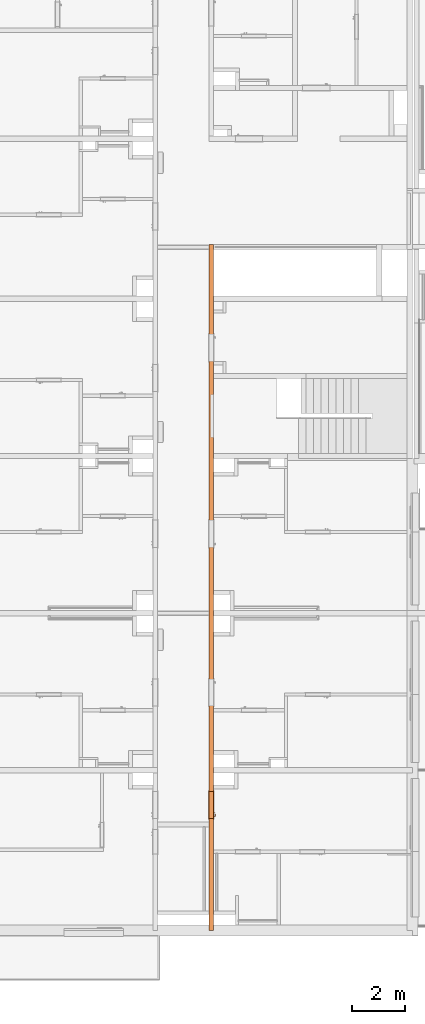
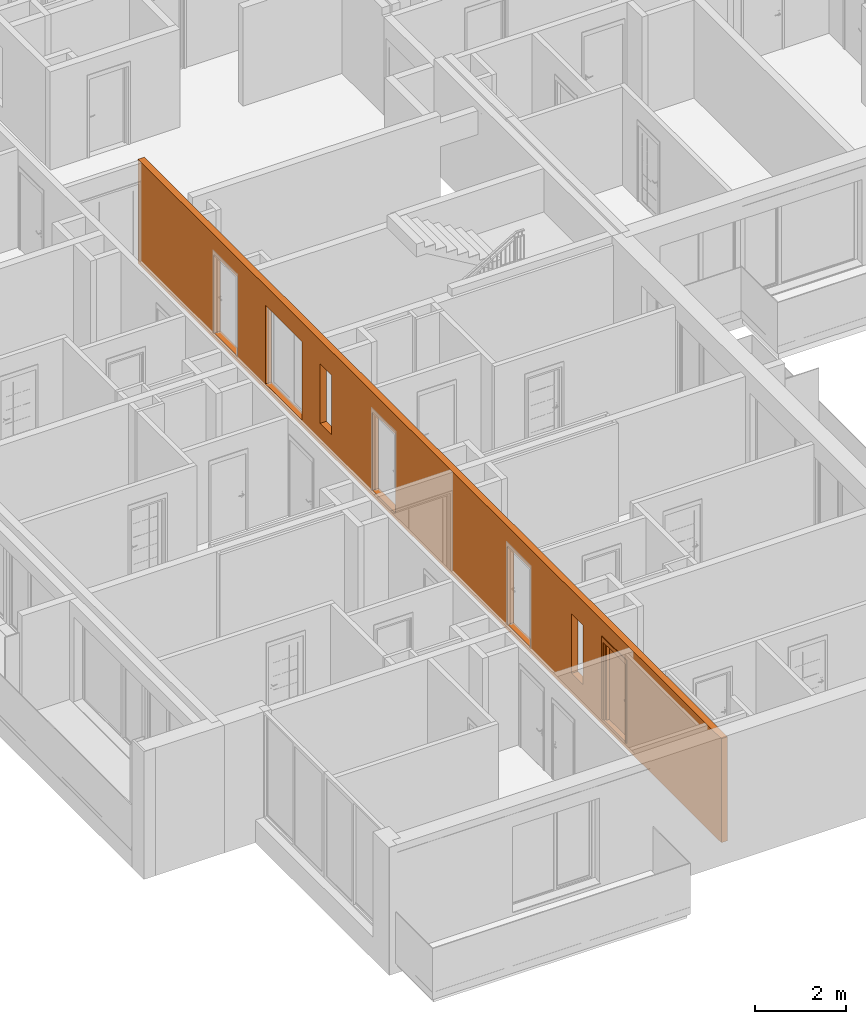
# One storey, part 11 of 67: 2 proxies, 7 openings.
"""IFC2X3 building model written with IfcOpenShell, lengths in millimetres."""

import ifcopenshell
import ifcopenshell.guid

model = None  # the IFC model being written
_history = None  # IfcOwnerHistory: only IFC2X3 demands one
_inside = {}  # id of a spatial element -> (the spatial element, [elements in it])
_under = {}  # id of a project, library or spatial element -> (it, [spatial elements below it])
_declared = {}  # id of a project -> (the project, [libraries it declares])
_typed = {}  # id of a type object -> (the type object, [elements of that type])
_made_of = {}  # id of a material, layer set ... -> (it, [elements and type objects made of it])


def new_model(schema):
    """Start an empty IFC model of exactly this schema.

    Asked for "IFC4X3", IfcOpenShell would pick the latest addendum, in which some entities
    have other attributes; the version numbers below select the first issue.
    IFC2X3 requires an IfcOwnerHistory on every rooted entity: one is made here for all.
    """
    global model, _history
    if schema == "IFC4X3":
        model = ifcopenshell.file(schema_version=(4, 3, 0, 0))
    else:
        model = ifcopenshell.file(schema=schema)
    _inside.clear()
    _under.clear()
    _declared.clear()
    _typed.clear()
    _made_of.clear()
    _history = None
    if model.schema == "IFC2X3":
        org = make("IfcOrganization", Name="unknown")
        user = make(
            "IfcPersonAndOrganization",
            ThePerson=make("IfcPerson", FamilyName="unknown"),
            TheOrganization=org,
        )
        app = make(
            "IfcApplication",
            ApplicationDeveloper=org,
            Version="unknown",
            ApplicationFullName="unknown",
            ApplicationIdentifier="unknown",
        )
        _history = make(
            "IfcOwnerHistory",
            OwningUser=user,
            OwningApplication=app,
            ChangeAction="ADDED",
            CreationDate=0,
        )
    return model


def make(cls, **values):
    """One entity of the class cls with the attributes given. An attribute that is None is left unset."""
    return model.create_entity(
        cls, **{name: value for name, value in values.items() if value is not None}
    )


def entity(cls, *values):
    """Any entity or typed value of the class cls, its attributes in the order of the schema. None: left unset."""
    e = model.create_entity(cls)
    for i, value in enumerate(values):
        if value is not None:
            e[i] = value
    return e


def rooted(cls, **values):
    """An entity with a GlobalId (a new one), such as an element, a storey or a relation."""
    return make(cls, GlobalId=ifcopenshell.guid.new(), OwnerHistory=_history, **values)


def si_unit(unit_type, name, prefix=None):
    """IfcSIUnit, for example si_unit("LENGTHUNIT", "METRE", prefix="MILLI")."""
    return make("IfcSIUnit", UnitType=unit_type, Prefix=prefix, Name=name)


def converted_unit(unit_type, name, factor, base, dimensions=None, offset=None):
    """IfcConversionBasedUnit, such as the inch: factor (a typed value) times the base unit."""
    return make(
        "IfcConversionBasedUnit"
        if offset is None
        else "IfcConversionBasedUnitWithOffset",
        ConversionOffset=offset,
        Dimensions=None
        if dimensions is None
        else entity("IfcDimensionalExponents", *dimensions),
        UnitType=unit_type,
        Name=name,
        ConversionFactor=make(
            "IfcMeasureWithUnit", ValueComponent=factor, UnitComponent=base
        ),
    )


def derived_unit(unit_type, elements):
    """IfcDerivedUnit: a product of units, each with its exponent."""
    return make(
        "IfcDerivedUnit",
        Elements=[
            make("IfcDerivedUnitElement", Unit=unit, Exponent=power)
            for unit, power in elements
        ],
        UnitType=unit_type,
    )


def money_unit(currency):
    """IfcMonetaryUnit."""
    return make("IfcMonetaryUnit", Currency=currency)


def assignment(units):
    """IfcUnitAssignment: the units of a project."""
    return None if units is None else make("IfcUnitAssignment", Units=units)


def point(xyz):
    """IfcCartesianPoint."""
    return None if xyz is None else make("IfcCartesianPoint", Coordinates=xyz)


def direction(xyz):
    """IfcDirection."""
    return None if xyz is None else make("IfcDirection", DirectionRatios=xyz)


def frame(location, z_axis=None, x_axis=None):
    """IfcAxis2Placement3D, a coordinate frame: its origin and axes. An axis left out is left unset."""
    return make(
        "IfcAxis2Placement3D",
        Location=point(location),
        Axis=direction(z_axis),
        RefDirection=direction(x_axis),
    )


def frame_2d(location, x_axis=None):
    """IfcAxis2Placement2D, a coordinate frame in the plane: its origin and x axis."""
    return make(
        "IfcAxis2Placement2D", Location=point(location), RefDirection=direction(x_axis)
    )


def origin_with_axes():
    """The frame at (0, 0, 0) with the z axis (0, 0, 1) and the x axis (1, 0, 0) written out."""
    return frame((0.0, 0.0, 0.0), z_axis=(0.0, 0.0, 1.0), x_axis=(1.0, 0.0, 0.0))


def origin_2d_with_axis():
    """The frame at (0, 0) in the plane with the x axis (1, 0) written out."""
    return frame_2d((0.0, 0.0), x_axis=(1.0, 0.0))


def place(relative_to, where):
    """IfcLocalPlacement: puts the frame where relative to a parent placement (None: the world)."""
    return make(
        "IfcLocalPlacement", PlacementRelTo=relative_to, RelativePlacement=where
    )


def context(
    kind, dimensions, precision=None, world=None, true_north=None, identifier=None
):
    """IfcGeometricRepresentationContext, for example the 3D "Model" context."""
    return make(
        "IfcGeometricRepresentationContext",
        ContextIdentifier=identifier,
        ContextType=kind,
        CoordinateSpaceDimension=dimensions,
        Precision=precision,
        WorldCoordinateSystem=world,
        TrueNorth=true_north,
    )


def subcontext(parent, identifier, kind, view, scale=None):
    """IfcGeometricRepresentationSubContext, for example "Body" below "Model"."""
    return make(
        "IfcGeometricRepresentationSubContext",
        ContextIdentifier=identifier,
        ContextType=kind,
        ParentContext=parent,
        TargetScale=scale,
        TargetView=view,
    )


def project(units=None, contexts=None):
    """IfcProject with its units and contexts."""
    return rooted(
        "IfcProject",
        Name="project",
        RepresentationContexts=contexts,
        UnitsInContext=assignment(units),
    )


def spatial(cls, under=None, at=None, **own):
    """A site, building, storey or space (cls), placed at a placement, below another one or the project."""
    s = rooted(cls, ObjectPlacement=at, **own)
    if under is not None:
        _under.setdefault(under.id(), (under, []))[1].append(s)
    return s


def profile(cls, at=None, kind="AREA", **sizes):
    """A parametric profile (cls). Its sizes go by their IFC names, for example OverallWidth=200.0."""
    return make(cls, ProfileType=kind, Position=at, **sizes)


def rectangle(**sizes):
    """IfcRectangleProfileDef."""
    return profile("IfcRectangleProfileDef", **sizes)


def extrude(swept, where, along, depth):
    """IfcExtrudedAreaSolid: the profile swept, set in the frame where, extruded along a direction by depth."""
    return make(
        "IfcExtrudedAreaSolid",
        SweptArea=swept,
        Position=where,
        ExtrudedDirection=direction(along),
        Depth=depth,
    )


def faces_of(points, faces, orient=None, outer=None):
    """IfcFace entities. A face is a list of loops; a loop is a list of indices into points, from 0.

    orient and outer hold one flag for each loop. By default every Orientation is true, the
    first loop of a face is its IfcFaceOuterBound and the others are IfcFaceBound.
    """
    made = []
    for i, loops in enumerate(faces):
        bounds = []
        for j, loop in enumerate(loops):
            is_outer = j == 0 if outer is None else outer[i][j]
            bounds.append(
                make(
                    "IfcFaceOuterBound" if is_outer else "IfcFaceBound",
                    Bound=make("IfcPolyLoop", Polygon=[points[k] for k in loop]),
                    Orientation=True if orient is None else orient[i][j],
                )
            )
        made.append(make("IfcFace", Bounds=bounds))
    return made


def open_shell(faces, orient=None, outer=None):
    """The faces of one IfcOpenShell. surface_model builds it on its shared points."""
    return ("IfcOpenShell", faces, orient, outer)


def faceted_brep(points, faces, orient=None, outer=None, voids=None):
    """IfcFacetedBrep: a solid bounded by flat faces; with voids (closed shells), ...WithVoids."""
    shared = [point(p) for p in points]
    hull = make("IfcClosedShell", CfsFaces=faces_of(shared, faces, orient, outer))
    if voids is None:
        return make("IfcFacetedBrep", Outer=hull)
    return make(
        "IfcFacetedBrepWithVoids",
        Outer=hull,
        Voids=[
            make(cls, CfsFaces=faces_of(shared, fs, o, b)) for cls, fs, o, b in voids
        ],
    )


def surface_model(cls, points, shells):
    """IfcFaceBasedSurfaceModel or IfcShellBasedSurfaceModel (cls): surfaces that need not close."""
    shared = [point(p) for p in points]
    made = [make(c, CfsFaces=faces_of(shared, fs, o, b)) for c, fs, o, b in shells]
    if cls == "IfcFaceBasedSurfaceModel":
        return make(cls, FbsmFaces=made)
    return make(cls, SbsmBoundary=made)


def shape(context_of_items, identifier, shape_type, items):
    """IfcShapeRepresentation: the items that make up one representation, for example the "Body"."""
    return make(
        "IfcShapeRepresentation",
        ContextOfItems=context_of_items,
        RepresentationIdentifier=identifier,
        RepresentationType=shape_type,
        Items=items,
    )


def source(mapping_origin, context_of_items, identifier, shape_type, items):
    """IfcRepresentationMap: a shape defined once, which mapped items show again and again."""
    return make(
        "IfcRepresentationMap",
        MappingOrigin=mapping_origin,
        MappedRepresentation=shape(context_of_items, identifier, shape_type, items),
    )


def transform(
    local_origin,
    x_axis=None,
    y_axis=None,
    z_axis=None,
    scale=None,
    scale2=None,
    scale3=None,
    uniform=True,
):
    """IfcCartesianTransformationOperator3D, or its non-uniform kind. x_axis, y_axis, z_axis: its Axis1, 2, 3."""
    if uniform:
        return make(
            "IfcCartesianTransformationOperator3D",
            Axis1=direction(x_axis),
            Axis2=direction(y_axis),
            LocalOrigin=point(local_origin),
            Scale=scale,
            Axis3=direction(z_axis),
        )
    return make(
        "IfcCartesianTransformationOperator3DnonUniform",
        Axis1=direction(x_axis),
        Axis2=direction(y_axis),
        LocalOrigin=point(local_origin),
        Scale=scale,
        Axis3=direction(z_axis),
        Scale2=scale2,
        Scale3=scale3,
    )


def mapped(mapping_source, mapping_target):
    """IfcMappedItem: shows the shape of a source again, moved by a transform."""
    return make(
        "IfcMappedItem", MappingSource=mapping_source, MappingTarget=mapping_target
    )


def material(Name=None, Category=None):
    """IfcMaterial."""
    return make("IfcMaterial", Name=Name, Category=Category)


def made_of(thing, what):
    """Note that an element or type object is made of a material, layer set ...; save() writes the relation."""
    if what is not None:
        _made_of.setdefault(what.id(), (what, []))[1].append(thing)
    return thing


def type_object(cls, material=None, **own):
    """A type object (cls), such as IfcWallType, which elements share."""
    return made_of(rooted(cls, **own), material)


def element(
    cls,
    number,
    at=None,
    inside=None,
    cuts=None,
    type_object=None,
    material=None,
    context=None,
    identifier="Body",
    shape_type=None,
    held_by="IfcProductDefinitionShape",
    body=None,
    shapes=None,
    **own,
):
    """One element of the class cls, such as IfcWall. Its Tag is "e" and its number.

    at: its placement. inside: the storey or other place that contains it. cuts: it is an
    opening in that element (IfcRelVoidsElement). A single representation is given by context,
    identifier, shape_type and body (its items); several are given by shapes. held_by: the class
    of the entity that holds the representations. save() writes the other relations.
    """
    e = rooted(cls, Tag="e%d" % number, ObjectPlacement=at, **own)
    if body is not None:
        shapes = [shape(context, identifier, shape_type, body)]
    if shapes is not None:
        e.Representation = make(held_by, Representations=shapes)
    if inside is not None:
        _inside.setdefault(inside.id(), (inside, []))[1].append(e)
    if cuts is not None:
        rooted(
            "IfcRelVoidsElement", RelatingBuildingElement=cuts, RelatedOpeningElement=e
        )
    if type_object is not None:
        _typed.setdefault(type_object.id(), (type_object, []))[1].append(e)
    return made_of(e, material)


def fill(opening, filler):
    """IfcRelFillsElement: the door or window that sits in an opening."""
    return rooted(
        "IfcRelFillsElement",
        RelatingOpeningElement=opening,
        RelatedBuildingElement=filler,
    )


def aggregate(whole, parts):
    """IfcRelAggregates: a whole, such as a stair, and the parts it consists of."""
    return rooted("IfcRelAggregates", RelatingObject=whole, RelatedObjects=parts)


def save(model, path):
    """Write the relations noted so far, then the file.

    IfcRelAggregates (storeys below a building ...), IfcRelContainedInSpatialStructure (elements
    in a storey), IfcRelDefinesByType, IfcRelAssociatesMaterial and IfcRelDeclares: one each for
    every whole, place, type object, material and project.
    """
    for whole, parts in _under.values():
        aggregate(whole, parts)
    for where, things in _inside.values():
        rooted(
            "IfcRelContainedInSpatialStructure",
            RelatedElements=things,
            RelatingStructure=where,
        )
    for kind, things in _typed.values():
        rooted("IfcRelDefinesByType", RelatedObjects=things, RelatingType=kind)
    for what, things in _made_of.values():
        rooted("IfcRelAssociatesMaterial", RelatedObjects=things, RelatingMaterial=what)
    for by, libraries in _declared.values():
        rooted("IfcRelDeclares", RelatingContext=by, RelatedDefinitions=libraries)
    model.write(path)


model = new_model("IFC2X3")

# Units and contexts
model_context = context("Model", 3, precision=0.01, world=origin_with_axes(), true_north=direction((0.34421633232, 0.938890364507)))
body_context = subcontext(model_context, "Body", "Model", "MODEL_VIEW")
ifc_project = project(units=[si_unit("LENGTHUNIT", "METRE", prefix="MILLI"), si_unit("AREAUNIT", "SQUARE_METRE"), si_unit("VOLUMEUNIT", "CUBIC_METRE"), converted_unit("PLANEANGLEUNIT", "DEGREE", entity("IfcPlaneAngleMeasure", 0.0174532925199), si_unit("PLANEANGLEUNIT", "RADIAN"), dimensions=[0, 0, 0, 0, 0, 0, 0]), si_unit("SOLIDANGLEUNIT", "STERADIAN"), money_unit("USD"), converted_unit("TIMEUNIT", "Year", entity("IfcTimeMeasure", 31556926.0), si_unit("TIMEUNIT", "SECOND"), dimensions=[0, 0, 1, 0, 0, 0, 0]), si_unit("MASSUNIT", "GRAM", prefix="KILO"), si_unit("THERMODYNAMICTEMPERATUREUNIT", "DEGREE_CELSIUS"), si_unit("LUMINOUSINTENSITYUNIT", "LUMEN"), si_unit("ENERGYUNIT", "JOULE", prefix="MEGA"), derived_unit("THERMALCONDUCTANCEUNIT", [(si_unit("POWERUNIT", "WATT"), 1), (si_unit("LENGTHUNIT", "METRE"), -1), (si_unit("THERMODYNAMICTEMPERATUREUNIT", "KELVIN"), -1)]), derived_unit("SPECIFICHEATCAPACITYUNIT", [(si_unit("ENERGYUNIT", "JOULE"), 1), (si_unit("MASSUNIT", "GRAM", prefix="KILO"), -1), (si_unit("THERMODYNAMICTEMPERATUREUNIT", "KELVIN"), -1)]), derived_unit("MASSDENSITYUNIT", [(si_unit("MASSUNIT", "GRAM", prefix="KILO"), 1), (si_unit("VOLUMEUNIT", "CUBIC_METRE"), -1)])], contexts=[model_context])

# Site, building, storey
site_placement = place(None, origin_with_axes())
site = spatial("IfcSite", under=ifc_project, at=site_placement, Name="USTRONIE MORSKIE", CompositionType="ELEMENT")
building_placement = place(site_placement, origin_with_axes())
building = spatial("IfcBuilding", under=site, at=building_placement, Name="Budynek", CompositionType="ELEMENT")
storey_placement = place(building_placement, frame((0.0, 0.0, 4000.0), z_axis=(0.0, 0.0, 1.0), x_axis=(1.0, 0.0, 0.0)))
storey = spatial("IfcBuildingStorey", under=building, at=storey_placement, Name="PIĘTRO 1", CompositionType="ELEMENT", Elevation=4000.0)

# Proxies, openings
ifc_material = material(Name="Beton konstrukcyjny B25")
building_element_proxy_type_1 = type_object("IfcBuildingElementProxyType", Name="Beton konstrukcyjny B25 160", PredefinedType="NOTDEFINED")
proxy_1_placement = place(storey_placement, frame((359617.920919, 734831.198985, -160.0), z_axis=(0.0, 0.0, 1.0), x_axis=(0.0, -1.0, 0.0)))
proxy_1 = element("IfcBuildingElementProxy", 1, at=proxy_1_placement, inside=storey, type_object=building_element_proxy_type_1, material=ifc_material, Name="SW-01", context=body_context, shape_type="Brep", body=[
    faceted_brep([(0.0, 80.0, 0.0), (25729.9999491, 80.0, 0.0), (25729.9999491, -80.0, 0.0), (0.0, -80.0, 0.0), (0.0, 80.0, 2800.0), (25729.9999491, 80.0, 2800.0), (25729.9999491, -80.0, 2800.0), (0.0, -80.0, 2800.0)], [[[0, 1, 2, 3]], [[4, 5, 1, 0]], [[6, 2, 1, 5]], [[3, 2, 6, 7]], [[7, 4, 0, 3]], [[7, 6, 5, 4]]]),
])
opening_1_placement = place(proxy_1_placement, frame((16809.9552113, 0.0, 160.0), z_axis=(0.0, 0.0, 1.0), x_axis=(1.0, 0.0, 0.0)))
element("IfcOpeningElement", 2, at=opening_1_placement, cuts=proxy_1, Name="Dw.1", context=body_context, shape_type="SweptSolid", body=[
    extrude(rectangle(XDim=1020.0, YDim=2120.0, at=origin_2d_with_axis()), frame((0.0, -160.0, 1060.0), z_axis=(0.0, 1.0, 0.0), x_axis=(1.0, 0.0, 0.0)), (0.0, 0.0, 1.0), 480.0),
    extrude(rectangle(XDim=1094.0, YDim=2227.0, at=origin_2d_with_axis()), frame((0.0, -80.0, 1113.5), z_axis=(0.0, 1.0, 0.0), x_axis=(1.0, 0.0, 0.0)), (0.0, 0.0, -1.0), 160.0),
    extrude(rectangle(XDim=1094.0, YDim=2227.0, at=origin_2d_with_axis()), frame((0.0, 80.0, 1113.5), z_axis=(0.0, -1.0, 0.0), x_axis=(1.0, 0.0, 0.0)), (0.0, 0.0, -1.0), 160.0),
])
opening_2_placement = place(proxy_1_placement, frame((21029.9999495, 0.0, 160.0), z_axis=(0.0, 0.0, 1.0), x_axis=(1.0, 0.0, 0.0)))
opening_2 = element("IfcOpeningElement", 3, at=opening_2_placement, cuts=proxy_1, Name="Dw.1", context=body_context, shape_type="SweptSolid", body=[
    extrude(rectangle(XDim=1020.0, YDim=2120.0, at=origin_2d_with_axis()), frame((0.0, -160.0, 1060.0), z_axis=(0.0, -1.0, 0.0), x_axis=(-1.0, 0.0, 0.0)), (0.0, 0.0, -1.0), 480.0),
    extrude(rectangle(XDim=1094.0, YDim=2227.0, at=origin_2d_with_axis()), frame((0.0, -80.0, 1113.5), z_axis=(0.0, -1.0, 0.0), x_axis=(-1.0, 0.0, 0.0)), (0.0, 0.0, 1.0), 160.0),
    extrude(rectangle(XDim=1094.0, YDim=2227.0, at=origin_2d_with_axis()), frame((0.0, 80.0, 1113.5), z_axis=(0.0, 1.0, 0.0), x_axis=(-1.0, 0.0, 0.0)), (0.0, 0.0, 1.0), 160.0),
])
opening_3_placement = place(proxy_1_placement, frame((3869.9999533, 0.0, 160.0), z_axis=(0.0, 0.0, 1.0), x_axis=(1.0, 0.0, 0.0)))
element("IfcOpeningElement", 4, at=opening_3_placement, cuts=proxy_1, Name="Dw.2", context=body_context, shape_type="SweptSolid", body=[
    extrude(rectangle(XDim=1020.0, YDim=2120.0, at=origin_2d_with_axis()), frame((0.0, -160.0, 1060.0), z_axis=(0.0, 1.0, 0.0), x_axis=(1.0, 0.0, 0.0)), (0.0, 0.0, 1.0), 480.0),
    extrude(rectangle(XDim=1094.0, YDim=2227.0, at=origin_2d_with_axis()), frame((0.0, -80.0, 1113.5), z_axis=(0.0, 1.0, 0.0), x_axis=(1.0, 0.0, 0.0)), (0.0, 0.0, -1.0), 160.0),
    extrude(rectangle(XDim=1094.0, YDim=2227.0, at=origin_2d_with_axis()), frame((0.0, 80.0, 1113.5), z_axis=(0.0, -1.0, 0.0), x_axis=(1.0, 0.0, 0.0)), (0.0, 0.0, -1.0), 160.0),
])
opening_4_placement = place(proxy_1_placement, frame((6429.99994909, 0.0, 160.0), z_axis=(0.0, 0.0, 1.0), x_axis=(1.0, 0.0, 0.0)))
element("IfcOpeningElement", 5, at=opening_4_placement, cuts=proxy_1, Name="D2", context=body_context, shape_type="SweptSolid", body=[
    extrude(rectangle(XDim=1620.0, YDim=2120.0, at=origin_2d_with_axis()), frame((0.0, -160.0, 1060.0), z_axis=(0.0, -1.0, 0.0), x_axis=(-1.0, 0.0, 0.0)), (0.0, 0.0, -1.0), 480.0),
])
opening_5_placement = place(proxy_1_placement, frame((10850.0446869, 0.0, 160.0), z_axis=(0.0, 0.0, 1.0), x_axis=(1.0, 0.0, 0.0)))
element("IfcOpeningElement", 6, at=opening_5_placement, cuts=proxy_1, Name="Dw.1", context=body_context, shape_type="SweptSolid", body=[
    extrude(rectangle(XDim=1020.0, YDim=2120.0, at=origin_2d_with_axis()), frame((0.0, -160.0, 1060.0), z_axis=(0.0, -1.0, 0.0), x_axis=(-1.0, 0.0, 0.0)), (0.0, 0.0, -1.0), 480.0),
    extrude(rectangle(XDim=1094.0, YDim=2227.0, at=origin_2d_with_axis()), frame((0.0, -80.0, 1113.5), z_axis=(0.0, -1.0, 0.0), x_axis=(-1.0, 0.0, 0.0)), (0.0, 0.0, 1.0), 160.0),
    extrude(rectangle(XDim=1094.0, YDim=2227.0, at=origin_2d_with_axis()), frame((0.0, 80.0, 1113.5), z_axis=(0.0, 1.0, 0.0), x_axis=(-1.0, 0.0, 0.0)), (0.0, 0.0, 1.0), 160.0),
])
opening_6_placement = place(proxy_1_placement, frame((8280.00085724, 0.0, 560.0), z_axis=(0.0, 0.0, 1.0), x_axis=(1.0, 0.0, 0.0)))
element("IfcOpeningElement", 7, at=opening_6_placement, cuts=proxy_1, Name="R.01", context=body_context, shape_type="SweptSolid", body=[
    extrude(rectangle(XDim=500.001816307, YDim=1600.0, at=origin_2d_with_axis()), frame((0.0, -80.0, 800.0), z_axis=(0.0, 1.0, 0.0), x_axis=(1.0, 0.0, 0.0)), (0.0, 0.0, -1.0), 160.0),
    extrude(rectangle(XDim=500.001816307, YDim=1600.0, at=origin_2d_with_axis()), frame((0.0, -80.0, 800.0), z_axis=(0.0, -1.0, 0.0), x_axis=(1.0, 0.0, 0.0)), (0.0, 0.0, -1.0), 160.0),
])
opening_7_placement = place(proxy_1_placement, frame((19380.0004126, 0.0, 560.0), z_axis=(0.0, 0.0, 1.0), x_axis=(1.0, 0.0, 0.0)))
element("IfcOpeningElement", 8, at=opening_7_placement, cuts=proxy_1, Name="R.01", context=body_context, shape_type="SweptSolid", body=[
    extrude(rectangle(XDim=500.001816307, YDim=1600.0, at=origin_2d_with_axis()), frame((0.0, -80.0, 800.0), z_axis=(0.0, 1.0, 0.0), x_axis=(1.0, 0.0, 0.0)), (0.0, 0.0, -1.0), 160.0),
    extrude(rectangle(XDim=500.001816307, YDim=1600.0, at=origin_2d_with_axis()), frame((0.0, -80.0, 800.0), z_axis=(0.0, -1.0, 0.0), x_axis=(1.0, 0.0, 0.0)), (0.0, 0.0, -1.0), 160.0),
])
building_element_proxy_type_2 = type_object("IfcBuildingElementProxyType", Name="Drzwi 23", PredefinedType="NOTDEFINED")
shared_shape = source(origin_with_axes(), body_context, "Body", "SurfaceModel", [
    faceted_brep([(510.0, -115.0, 0.0), (510.0, -160.0, 0.0), (485.0, -160.0, 0.0), (485.0, -115.0, 0.0), (510.0, -115.0, 2120.0), (510.0, -160.0, 2120.0), (485.0, -160.0, 2095.0), (485.0, -115.0, 2095.0)], [[[0, 1, 2, 3]], [[4, 5, 1, 0]], [[1, 5, 6, 2]], [[3, 2, 6, 7]], [[0, 3, 7, 4]], [[7, 6, 5, 4]]]),
    faceted_brep([(-510.0, -115.0, 2120.0), (-510.0, -160.0, 2120.0), (-485.0, -160.0, 2095.0), (-485.0, -115.0, 2095.0), (-510.0, -115.0, 0.0), (-510.0, -160.0, 0.0), (-485.0, -160.0, 0.0), (-485.0, -115.0, 0.0)], [[[0, 1, 2, 3]], [[4, 5, 1, 0]], [[1, 5, 6, 2]], [[3, 2, 6, 7]], [[0, 3, 7, 4]], [[7, 6, 5, 4]]]),
    faceted_brep([(485.0, -115.0, 2095.0), (485.0, -160.0, 2095.0), (-485.0, -160.0, 2095.0), (-485.0, -115.0, 2095.0), (510.0, -115.0, 2120.0), (510.0, -160.0, 2120.0), (-510.0, -160.0, 2120.0), (-510.0, -115.0, 2120.0)], [[[0, 1, 2, 3]], [[4, 5, 1, 0]], [[1, 5, 6, 2]], [[3, 2, 6, 7]], [[0, 3, 7, 4]], [[7, 6, 5, 4]]]),
    faceted_brep([(547.0, -179.0, 0.0), (497.0, -179.0, 0.0), (497.0, -160.0, 0.0), (547.0, -160.0, 0.0), (547.0, -179.0, 2227.0), (497.0, -179.0, 2107.0), (497.0, -160.0, 2107.0), (547.0, -160.0, 2227.0)], [[[0, 1, 2, 3]], [[0, 4, 5, 1]], [[1, 5, 6, 2]], [[3, 2, 6, 7]], [[4, 0, 3, 7]], [[5, 4, 7, 6]]]),
    faceted_brep([(-547.0, -179.0, 2227.0), (-497.0, -179.0, 2107.0), (-497.0, -160.0, 2107.0), (-547.0, -160.0, 2227.0), (-547.0, -179.0, 0.0), (-497.0, -179.0, 0.0), (-497.0, -160.0, 0.0), (-547.0, -160.0, 0.0)], [[[0, 1, 2, 3]], [[0, 4, 5, 1]], [[1, 5, 6, 2]], [[3, 2, 6, 7]], [[4, 0, 3, 7]], [[5, 4, 7, 6]]]),
    faceted_brep([(547.0, -179.0, 2227.0), (497.0, -179.0, 2107.0), (497.0, -160.0, 2107.0), (547.0, -160.0, 2227.0), (-547.0, -179.0, 2227.0), (-497.0, -179.0, 2107.0), (-497.0, -160.0, 2107.0), (-547.0, -160.0, 2227.0)], [[[0, 1, 2, 3]], [[0, 4, 5, 1]], [[1, 5, 6, 2]], [[3, 2, 6, 7]], [[4, 0, 3, 7]], [[5, 4, 7, 6]]]),
    faceted_brep([(547.0, 19.0, 0.0), (547.0, 0.0, 0.0), (497.0, 0.0, 0.0), (497.0, 19.0, 0.0), (547.0, 19.0, 2227.0), (547.0, 0.0, 2227.0), (497.0, 0.0, 2107.0), (497.0, 19.0, 2107.0)], [[[0, 1, 2, 3]], [[4, 5, 1, 0]], [[1, 5, 6, 2]], [[3, 2, 6, 7]], [[0, 3, 7, 4]], [[7, 6, 5, 4]]]),
    faceted_brep([(-547.0, 19.0, 2227.0), (-547.0, 0.0, 2227.0), (-497.0, 0.0, 2107.0), (-497.0, 19.0, 2107.0), (-547.0, 19.0, 0.0), (-547.0, 0.0, 0.0), (-497.0, 0.0, 0.0), (-497.0, 19.0, 0.0)], [[[0, 1, 2, 3]], [[4, 5, 1, 0]], [[1, 5, 6, 2]], [[3, 2, 6, 7]], [[0, 3, 7, 4]], [[7, 6, 5, 4]]]),
    faceted_brep([(547.0, 19.0, 2227.0), (547.0, 0.0, 2227.0), (497.0, 0.0, 2107.0), (497.0, 19.0, 2107.0), (-547.0, 19.0, 2227.0), (-547.0, 0.0, 2227.0), (-497.0, 0.0, 2107.0), (-497.0, 19.0, 2107.0)], [[[0, 1, 2, 3]], [[4, 5, 1, 0]], [[1, 5, 6, 2]], [[3, 2, 6, 7]], [[0, 3, 7, 4]], [[7, 6, 5, 4]]]),
    faceted_brep([(450.0, -40.0, 0.0), (450.0, -115.0, 0.0), (450.0, -115.0, 2050.0), (450.0, -40.0, 2050.0), (462.0, -40.0, 0.0), (462.0, 0.0, 0.0), (510.0, 0.0, 0.0), (510.0, -115.0, 0.0), (510.0, -115.0, 2050.0), (462.0, -40.0, 2050.0), (510.0, 0.0, 2050.0), (462.0, 0.0, 2050.0)], [[[0, 1, 2, 3]], [[4, 5, 6, 7, 1, 0]], [[1, 7, 8, 2]], [[9, 3, 2, 8, 10, 11]], [[9, 4, 0, 3]], [[11, 5, 4, 9]], [[11, 10, 6, 5]], [[6, 10, 8, 7]]]),
    faceted_brep([(-462.0, -40.0, 2050.0), (-462.0, 0.0, 2050.0), (-510.0, 0.0, 2050.0), (-510.0, -115.0, 2050.0), (-450.0, -115.0, 2050.0), (-450.0, -40.0, 2050.0), (-462.0, -40.0, 0.0), (-462.0, 0.0, 0.0), (-510.0, 0.0, 0.0), (-510.0, -115.0, 0.0), (-450.0, -115.0, 0.0), (-450.0, -40.0, 0.0)], [[[0, 1, 2, 3, 4, 5]], [[0, 6, 7, 1]], [[7, 8, 2, 1]], [[2, 8, 9, 3]], [[3, 9, 10, 4]], [[5, 4, 10, 11]], [[5, 11, 6, 0]], [[6, 11, 10, 9, 8, 7]]]),
    faceted_brep([(462.0, 0.0, 2062.0), (-462.0, 0.0, 2062.0), (-462.0, 0.0, 2050.0), (-510.0, 0.0, 2050.0), (-510.0, 0.0, 2120.0), (510.0, 0.0, 2120.0), (510.0, 0.0, 2050.0), (462.0, 0.0, 2050.0), (462.0, -40.0, 2062.0), (-462.0, -40.0, 2062.0), (-462.0, -40.0, 2050.0), (-450.0, -40.0, 2050.0), (-450.0, -115.0, 2050.0), (-510.0, -115.0, 2050.0), (-510.0, -115.0, 2120.0), (510.0, -115.0, 2120.0), (510.0, -115.0, 2050.0), (462.0, -40.0, 2050.0), (450.0, -115.0, 2050.0), (450.0, -40.0, 2050.0)], [[[0, 1, 2, 3, 4, 5, 6, 7]], [[0, 8, 9, 1]], [[1, 9, 10, 2]], [[10, 11, 12, 13, 3, 2]], [[4, 3, 13, 14]], [[5, 4, 14, 15]], [[6, 5, 15, 16]], [[17, 7, 6, 16, 18, 19]], [[7, 17, 8, 0]], [[10, 9, 8, 17, 19, 11]], [[19, 18, 12, 11]], [[12, 18, 16, 15, 14, 13]]]),
    faceted_brep([(440.5, -40.0, 1060.0), (383.5, -40.0, 1060.0), (383.5, -43.0, 1060.0), (440.5, -43.0, 1060.0), (440.5, -40.0, 870.0), (383.5, -40.0, 870.0), (383.5, -43.0, 870.0), (440.5, -43.0, 870.0)], [[[0, 1, 2, 3]], [[0, 4, 5, 1]], [[1, 5, 6, 2]], [[3, 2, 6, 7]], [[4, 0, 3, 7]], [[5, 4, 7, 6]]]),
    faceted_brep([(412.0, -104.0, 990.0), (417.0, -104.0, 991.339745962), (417.0, -111.0, 991.339745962), (412.0, -111.0, 990.0), (387.0, -104.0, 990.0), (387.0, -104.0, 1010.0), (412.0, -104.0, 1010.0), (417.0, -104.0, 1008.66025404), (420.660254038, -104.0, 1005.0), (422.0, -104.0, 1000.0), (420.660254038, -104.0, 995.0), (420.660254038, -111.0, 995.0), (422.0, -111.0, 1000.0), (420.660254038, -111.0, 1005.0), (417.0, -111.0, 1008.66025404), (412.0, -111.0, 1010.0), (387.0, -111.0, 1010.0), (387.0, -111.0, 990.0)], [[[0, 1, 2, 3]], [[0, 4, 5, 6, 7, 8, 9, 10, 1]], [[1, 10, 11, 2]], [[3, 2, 11, 12, 13, 14, 15, 16, 17]], [[4, 0, 3, 17]], [[5, 4, 17, 16]], [[6, 5, 16, 15]], [[7, 6, 15, 14]], [[8, 7, 14, 13]], [[9, 8, 13, 12]], [[10, 9, 12, 11]]]),
    surface_model("IfcShellBasedSurfaceModel", [(387.0, -104.0, 1010.0), (373.901717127, -104.0, 1009.60730092), (373.596090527, -111.0, 1009.60730092), (387.0, -104.0, 990.0), (373.901717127, -104.0, 990.392699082), (346.890283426, -108.663544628, 1008.82190275), (387.0, -111.0, 1010.0), (387.0, -111.0, 990.0), (347.804837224, -101.716818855, 991.178097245), (347.804837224, -101.716818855, 1008.82190275), (346.890283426, -108.663544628, 991.178097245), (373.596090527, -111.0, 990.392699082), (322.006256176, -97.1678329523, 991.963495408), (322.006256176, -97.1678329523, 1008.03650459), (320.489735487, -104.008415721, 1008.03650459), (320.489735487, -104.008415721, 991.963495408), (296.702316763, -90.3876628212, 992.748893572), (296.702316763, -90.3876628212, 1007.25110643), (294.59537082, -97.0700416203, 1007.25110643), (294.59537082, -97.0700416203, 992.748893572), (288.829442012, -87.5221707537, 993.0), (288.829442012, -87.5221707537, 1007.0), (286.538795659, -94.1376880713, 1007.0), (286.538795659, -94.1376880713, 993.0)], [open_shell([[[0, 1, 2]], [[0, 3, 4, 1]], [[1, 5, 2]], [[0, 2, 6]], [[4, 3, 7]], [[1, 4, 8, 9]], [[1, 9, 5]], [[2, 5, 10, 11]], [[6, 2, 11, 7]], [[4, 7, 11]], [[8, 4, 11]], [[9, 8, 12, 13]], [[9, 14, 5]], [[5, 14, 15, 10]], [[8, 11, 10]], [[12, 8, 10]], [[13, 12, 16, 17]], [[9, 13, 14]], [[14, 18, 19, 15]], [[12, 10, 15]], [[16, 12, 15]], [[17, 16, 20, 21]], [[13, 17, 18]], [[13, 18, 14]], [[18, 22, 23, 19]], [[16, 15, 19]], [[20, 16, 19]], [[21, 20, 23, 22]], [[17, 21, 22]], [[17, 22, 18]], [[20, 19, 23]]])]),
    faceted_brep([(401.607695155, -53.0, 994.0), (400.0, -53.0, 1000.0), (399.0, -43.0, 1000.0), (400.741669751, -43.0, 993.5), (406.0, -53.0, 989.607695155), (412.0, -53.0, 988.0), (418.0, -53.0, 989.607695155), (422.392304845, -53.0, 994.0), (424.0, -53.0, 1000.0), (422.392304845, -53.0, 1006.0), (418.0, -53.0, 1010.39230485), (412.0, -53.0, 1012.0), (406.0, -53.0, 1010.39230485), (401.607695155, -53.0, 1006.0), (400.741669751, -43.0, 1006.5), (405.5, -43.0, 1011.25833025), (412.0, -43.0, 1013.0), (418.5, -43.0, 1011.25833025), (423.258330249, -43.0, 1006.5), (425.0, -43.0, 1000.0), (423.258330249, -43.0, 993.5), (418.5, -43.0, 988.741669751), (412.0, -43.0, 987.0), (405.5, -43.0, 988.741669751)], [[[0, 1, 2, 3]], [[1, 0, 4, 5, 6, 7, 8, 9, 10, 11, 12, 13]], [[1, 13, 14, 2]], [[2, 14, 15, 16, 17, 18, 19, 20, 21, 22, 23, 3]], [[4, 0, 3, 23]], [[5, 4, 23, 22]], [[6, 5, 22, 21]], [[7, 6, 21, 20]], [[8, 7, 20, 19]], [[9, 8, 19, 18]], [[10, 9, 18, 17]], [[11, 10, 17, 16]], [[12, 11, 16, 15]], [[13, 12, 15, 14]]]),
    faceted_brep([(394.679491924, -47.0, 895.0), (392.0, -47.0, 905.0), (390.0, -43.0, 905.0), (392.947441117, -43.0, 894.0), (402.0, -47.0, 887.679491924), (412.0, -47.0, 885.0), (422.0, -47.0, 887.679491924), (429.320508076, -47.0, 895.0), (432.0, -47.0, 905.0), (429.320508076, -47.0, 915.0), (422.0, -47.0, 922.320508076), (412.0, -47.0, 925.0), (402.0, -47.0, 922.320508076), (394.679491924, -47.0, 915.0), (392.947441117, -43.0, 916.0), (401.0, -43.0, 924.052558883), (412.0, -43.0, 927.0), (423.0, -43.0, 924.052558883), (431.052558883, -43.0, 916.0), (434.0, -43.0, 905.0), (431.052558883, -43.0, 894.0), (423.0, -43.0, 885.947441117), (412.0, -43.0, 883.0), (401.0, -43.0, 885.947441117)], [[[0, 1, 2, 3]], [[1, 0, 4, 5, 6, 7, 8, 9, 10, 11, 12, 13]], [[1, 13, 14, 2]], [[2, 14, 15, 16, 17, 18, 19, 20, 21, 22, 23, 3]], [[4, 0, 3, 23]], [[5, 4, 23, 22]], [[6, 5, 22, 21]], [[7, 6, 21, 20]], [[8, 7, 20, 19]], [[9, 8, 19, 18]], [[10, 9, 18, 17]], [[11, 10, 17, 16]], [[12, 11, 16, 15]], [[13, 12, 15, 14]]]),
    faceted_brep([(407.050252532, -49.0, 909.050252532), (405.0, -49.0, 914.0), (404.0, -47.0, 914.0), (406.343145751, -47.0, 908.343145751), (412.0, -49.0, 907.0), (416.949747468, -49.0, 909.050252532), (419.0, -49.0, 914.0), (416.949747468, -49.0, 918.949747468), (412.0, -49.0, 921.0), (407.050252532, -49.0, 918.949747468), (406.343145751, -47.0, 919.656854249), (412.0, -47.0, 922.0), (417.656854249, -47.0, 919.656854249), (420.0, -47.0, 914.0), (417.656854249, -47.0, 908.343145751), (412.0, -47.0, 906.0)], [[[0, 1, 2, 3]], [[1, 0, 4, 5, 6, 7, 8, 9]], [[1, 9, 10, 2]], [[2, 10, 11, 12, 13, 14, 15, 3]], [[4, 0, 3, 15]], [[5, 4, 15, 14]], [[6, 5, 14, 13]], [[7, 6, 13, 12]], [[8, 7, 12, 11]], [[9, 8, 11, 10]]]),
    faceted_brep([(412.0, -53.0, 1010.0), (407.0, -53.0, 1008.66025404), (407.0, -104.0, 1008.66025404), (412.0, -104.0, 1010.0), (417.0, -53.0, 1008.66025404), (420.660254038, -53.0, 1005.0), (422.0, -53.0, 1000.0), (420.660254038, -53.0, 995.0), (417.0, -53.0, 991.339745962), (412.0, -53.0, 990.0), (407.0, -53.0, 991.339745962), (403.339745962, -53.0, 995.0), (402.0, -53.0, 1000.0), (403.339745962, -53.0, 1005.0), (403.339745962, -104.0, 1005.0), (402.0, -104.0, 1000.0), (403.339745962, -104.0, 995.0), (407.0, -104.0, 991.339745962), (412.0, -104.0, 990.0), (417.0, -104.0, 991.339745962), (420.660254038, -104.0, 995.0), (422.0, -104.0, 1000.0), (420.660254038, -104.0, 1005.0), (417.0, -104.0, 1008.66025404)], [[[0, 1, 2, 3]], [[0, 4, 5, 6, 7, 8, 9, 10, 11, 12, 13, 1]], [[1, 13, 14, 2]], [[3, 2, 14, 15, 16, 17, 18, 19, 20, 21, 22, 23]], [[4, 0, 3, 23]], [[5, 4, 23, 22]], [[6, 5, 22, 21]], [[7, 6, 21, 20]], [[8, 7, 20, 19]], [[9, 8, 19, 18]], [[10, 9, 18, 17]], [[11, 10, 17, 16]], [[12, 11, 16, 15]], [[13, 12, 15, 14]]]),
    faceted_brep([(440.5, 0.0, 1060.0), (440.5, 3.0, 1060.0), (383.5, 3.0, 1060.0), (383.5, 0.0, 1060.0), (440.5, 0.0, 870.0), (440.5, 3.0, 870.0), (383.5, 3.0, 870.0), (383.5, 0.0, 870.0)], [[[0, 1, 2, 3]], [[4, 5, 1, 0]], [[1, 5, 6, 2]], [[3, 2, 6, 7]], [[0, 3, 7, 4]], [[7, 6, 5, 4]]]),
    faceted_brep([(412.0, 64.0, 990.0), (412.0, 71.0, 990.0), (417.0, 71.0, 991.339745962), (417.0, 64.0, 991.339745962), (387.0, 64.0, 990.0), (387.0, 71.0, 990.0), (387.0, 71.0, 1010.0), (412.0, 71.0, 1010.0), (417.0, 71.0, 1008.66025404), (420.660254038, 71.0, 1005.0), (422.0, 71.0, 1000.0), (420.660254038, 71.0, 995.0), (420.660254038, 64.0, 995.0), (422.0, 64.0, 1000.0), (420.660254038, 64.0, 1005.0), (417.0, 64.0, 1008.66025404), (412.0, 64.0, 1010.0), (387.0, 64.0, 1010.0)], [[[0, 1, 2, 3]], [[4, 5, 1, 0]], [[1, 5, 6, 7, 8, 9, 10, 11, 2]], [[3, 2, 11, 12]], [[0, 3, 12, 13, 14, 15, 16, 17, 4]], [[17, 6, 5, 4]], [[16, 7, 6, 17]], [[15, 8, 7, 16]], [[14, 9, 8, 15]], [[13, 10, 9, 14]], [[12, 11, 10, 13]]]),
    surface_model("IfcShellBasedSurfaceModel", [(387.0, 64.0, 1010.0), (373.596090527, 71.0, 1009.60730092), (373.901717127, 64.0, 1009.60730092), (387.0, 71.0, 1010.0), (346.890283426, 68.6635446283, 1008.82190275), (373.901717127, 64.0, 990.392699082), (387.0, 64.0, 990.0), (387.0, 71.0, 990.0), (373.596090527, 71.0, 990.392699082), (346.890283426, 68.6635446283, 991.178097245), (347.804837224, 61.716818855, 1008.82190275), (347.804837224, 61.716818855, 991.178097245), (320.489735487, 64.0084157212, 991.963495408), (320.489735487, 64.0084157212, 1008.03650459), (322.006256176, 57.1678329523, 1008.03650459), (322.006256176, 57.1678329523, 991.963495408), (294.59537082, 57.0700416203, 992.748893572), (294.59537082, 57.0700416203, 1007.25110643), (296.702316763, 50.3876628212, 1007.25110643), (296.702316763, 50.3876628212, 992.748893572), (286.538795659, 54.1376880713, 993.0), (286.538795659, 54.1376880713, 1007.0), (288.829442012, 47.5221707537, 1007.0), (288.829442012, 47.5221707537, 993.0)], [open_shell([[[0, 1, 2]], [[0, 3, 1]], [[2, 1, 4]], [[0, 2, 5, 6]], [[3, 7, 8, 1]], [[1, 8, 9, 4]], [[2, 4, 10]], [[2, 10, 11, 5]], [[5, 7, 6]], [[5, 8, 7]], [[11, 9, 8]], [[4, 9, 12, 13]], [[10, 4, 13]], [[10, 14, 15, 11]], [[11, 8, 5]], [[15, 9, 11]], [[15, 12, 9]], [[13, 12, 16, 17]], [[10, 13, 14]], [[14, 18, 19, 15]], [[19, 12, 15]], [[19, 16, 12]], [[17, 16, 20, 21]], [[14, 13, 17]], [[14, 17, 18]], [[18, 22, 23, 19]], [[23, 16, 19]], [[23, 20, 16]], [[22, 21, 20, 23]], [[18, 17, 21]], [[18, 21, 22]]])]),
    faceted_brep([(401.607695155, 13.0, 994.0), (400.741669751, 3.0, 993.5), (399.0, 3.0, 1000.0), (400.0, 13.0, 1000.0), (406.0, 13.0, 989.607695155), (405.5, 3.0, 988.741669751), (412.0, 3.0, 987.0), (418.5, 3.0, 988.741669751), (423.258330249, 3.0, 993.5), (425.0, 3.0, 1000.0), (423.258330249, 3.0, 1006.5), (418.5, 3.0, 1011.25833025), (412.0, 3.0, 1013.0), (405.5, 3.0, 1011.25833025), (400.741669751, 3.0, 1006.5), (401.607695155, 13.0, 1006.0), (406.0, 13.0, 1010.39230485), (412.0, 13.0, 1012.0), (418.0, 13.0, 1010.39230485), (422.392304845, 13.0, 1006.0), (424.0, 13.0, 1000.0), (422.392304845, 13.0, 994.0), (418.0, 13.0, 989.607695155), (412.0, 13.0, 988.0)], [[[0, 1, 2, 3]], [[4, 5, 1, 0]], [[2, 1, 5, 6, 7, 8, 9, 10, 11, 12, 13, 14]], [[3, 2, 14, 15]], [[3, 15, 16, 17, 18, 19, 20, 21, 22, 23, 4, 0]], [[23, 6, 5, 4]], [[22, 7, 6, 23]], [[21, 8, 7, 22]], [[20, 9, 8, 21]], [[19, 10, 9, 20]], [[18, 11, 10, 19]], [[17, 12, 11, 18]], [[16, 13, 12, 17]], [[15, 14, 13, 16]]]),
    faceted_brep([(394.679491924, 7.0, 895.0), (392.947441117, 3.0, 894.0), (390.0, 3.0, 905.0), (392.0, 7.0, 905.0), (402.0, 7.0, 887.679491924), (401.0, 3.0, 885.947441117), (412.0, 3.0, 883.0), (423.0, 3.0, 885.947441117), (431.052558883, 3.0, 894.0), (434.0, 3.0, 905.0), (431.052558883, 3.0, 916.0), (423.0, 3.0, 924.052558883), (412.0, 3.0, 927.0), (401.0, 3.0, 924.052558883), (392.947441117, 3.0, 916.0), (394.679491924, 7.0, 915.0), (402.0, 7.0, 922.320508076), (412.0, 7.0, 925.0), (422.0, 7.0, 922.320508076), (429.320508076, 7.0, 915.0), (432.0, 7.0, 905.0), (429.320508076, 7.0, 895.0), (422.0, 7.0, 887.679491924), (412.0, 7.0, 885.0)], [[[0, 1, 2, 3]], [[4, 5, 1, 0]], [[2, 1, 5, 6, 7, 8, 9, 10, 11, 12, 13, 14]], [[3, 2, 14, 15]], [[3, 15, 16, 17, 18, 19, 20, 21, 22, 23, 4, 0]], [[23, 6, 5, 4]], [[22, 7, 6, 23]], [[21, 8, 7, 22]], [[20, 9, 8, 21]], [[19, 10, 9, 20]], [[18, 11, 10, 19]], [[17, 12, 11, 18]], [[16, 13, 12, 17]], [[15, 14, 13, 16]]]),
    faceted_brep([(407.050252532, 9.0, 909.050252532), (406.343145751, 7.0, 908.343145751), (404.0, 7.0, 914.0), (405.0, 9.0, 914.0), (412.0, 9.0, 907.0), (412.0, 7.0, 906.0), (417.656854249, 7.0, 908.343145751), (420.0, 7.0, 914.0), (417.656854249, 7.0, 919.656854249), (412.0, 7.0, 922.0), (406.343145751, 7.0, 919.656854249), (407.050252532, 9.0, 918.949747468), (412.0, 9.0, 921.0), (416.949747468, 9.0, 918.949747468), (419.0, 9.0, 914.0), (416.949747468, 9.0, 909.050252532)], [[[0, 1, 2, 3]], [[4, 5, 1, 0]], [[2, 1, 5, 6, 7, 8, 9, 10]], [[3, 2, 10, 11]], [[3, 11, 12, 13, 14, 15, 4, 0]], [[15, 6, 5, 4]], [[14, 7, 6, 15]], [[13, 8, 7, 14]], [[12, 9, 8, 13]], [[11, 10, 9, 12]]]),
    faceted_brep([(412.0, 13.0, 1010.0), (412.0, 64.0, 1010.0), (407.0, 64.0, 1008.66025404), (407.0, 13.0, 1008.66025404), (417.0, 13.0, 1008.66025404), (417.0, 64.0, 1008.66025404), (420.660254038, 64.0, 1005.0), (422.0, 64.0, 1000.0), (420.660254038, 64.0, 995.0), (417.0, 64.0, 991.339745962), (412.0, 64.0, 990.0), (407.0, 64.0, 991.339745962), (403.339745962, 64.0, 995.0), (402.0, 64.0, 1000.0), (403.339745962, 64.0, 1005.0), (403.339745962, 13.0, 1005.0), (402.0, 13.0, 1000.0), (403.339745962, 13.0, 995.0), (407.0, 13.0, 991.339745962), (412.0, 13.0, 990.0), (417.0, 13.0, 991.339745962), (420.660254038, 13.0, 995.0), (422.0, 13.0, 1000.0), (420.660254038, 13.0, 1005.0)], [[[0, 1, 2, 3]], [[4, 5, 1, 0]], [[1, 5, 6, 7, 8, 9, 10, 11, 12, 13, 14, 2]], [[3, 2, 14, 15]], [[0, 3, 15, 16, 17, 18, 19, 20, 21, 22, 23, 4]], [[23, 6, 5, 4]], [[22, 7, 6, 23]], [[21, 8, 7, 22]], [[20, 9, 8, 21]], [[19, 10, 9, 20]], [[18, 11, 10, 19]], [[17, 12, 11, 18]], [[16, 13, 12, 17]], [[15, 14, 13, 16]]]),
    faceted_brep([(-462.0, 0.0, 0.0), (462.0, 0.0, 0.0), (462.0, -40.0, 0.0), (-462.0, -40.0, 0.0), (-462.0, 0.0, 2062.0), (462.0, 0.0, 2062.0), (462.0, -40.0, 2062.0), (-462.0, -40.0, 2062.0)], [[[0, 1, 2, 3]], [[0, 4, 5, 1]], [[1, 5, 6, 2]], [[3, 2, 6, 7]], [[4, 0, 3, 7]], [[5, 4, 7, 6]]]),
])
proxy_2_placement = place(opening_2_placement, frame((-450.0, 0.0, 0.0), z_axis=(0.0, 0.0, 1.0), x_axis=(1.0, 0.0, 0.0)))
proxy_2 = element("IfcBuildingElementProxy", 9, at=proxy_2_placement, inside=storey, type_object=building_element_proxy_type_2, Name="Dw.1", context=body_context, shape_type="MappedRepresentation", body=[
    mapped(shared_shape, transform((450.0, 80.0, 0.0))),
])
fill(opening_2, proxy_2)

save(model, "model.ifc")
